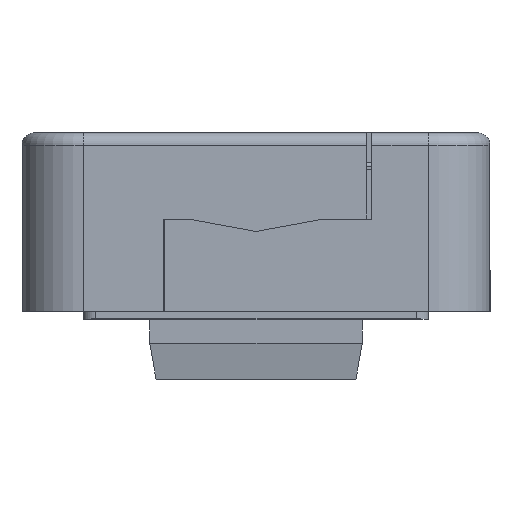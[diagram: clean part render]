
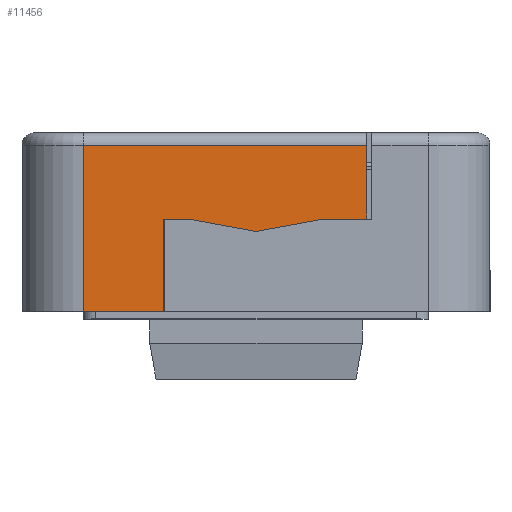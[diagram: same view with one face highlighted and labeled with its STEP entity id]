
A CAD part, left-side view. The second image highlights one B-rep face of the part: STEP entity #11456.
In plain terms, the highlighted planar face has unit normal (-1, 0, 0).
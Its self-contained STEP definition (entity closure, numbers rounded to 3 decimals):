
#1395=FACE_OUTER_BOUND('',#2057,.T.);
#2057=EDGE_LOOP('',(#10407,#10408,#10409,#10410,#10411,#10412,#10413,#10414,
#10415));
#2766=LINE('',#17646,#3950);
#3210=LINE('',#19483,#4394);
#3214=LINE('',#19491,#4398);
#3216=LINE('',#19494,#4400);
#3217=LINE('',#19496,#4401);
#3245=LINE('',#19606,#4429);
#3247=LINE('',#19619,#4431);
#3248=LINE('',#19621,#4432);
#3249=LINE('',#19622,#4433);
#3950=VECTOR('',#14034,10.);
#4394=VECTOR('',#14906,10.);
#4398=VECTOR('',#14914,10.);
#4400=VECTOR('',#14918,10.);
#4401=VECTOR('',#14919,10.);
#4429=VECTOR('',#15041,10.);
#4431=VECTOR('',#15059,10.);
#4432=VECTOR('',#15060,10.);
#4433=VECTOR('',#15061,10.);
#5092=VERTEX_POINT('',#17643);
#5093=VERTEX_POINT('',#17645);
#5487=VERTEX_POINT('',#19480);
#5488=VERTEX_POINT('',#19482);
#5490=VERTEX_POINT('',#19490);
#5491=VERTEX_POINT('',#19495);
#5526=VERTEX_POINT('',#19604);
#5529=VERTEX_POINT('',#19618);
#5530=VERTEX_POINT('',#19620);
#6514=EDGE_CURVE('',#5093,#5092,#2766,.T.);
#7101=EDGE_CURVE('',#5488,#5487,#3210,.T.);
#7105=EDGE_CURVE('',#5490,#5488,#3214,.T.);
#7107=EDGE_CURVE('',#5487,#5093,#3216,.T.);
#7108=EDGE_CURVE('',#5491,#5490,#3217,.T.);
#7160=EDGE_CURVE('',#5526,#5092,#3245,.T.);
#7166=EDGE_CURVE('',#5529,#5526,#3247,.T.);
#7167=EDGE_CURVE('',#5529,#5530,#3248,.T.);
#7168=EDGE_CURVE('',#5530,#5491,#3249,.T.);
#10407=ORIENTED_EDGE('',*,*,#7108,.T.);
#10408=ORIENTED_EDGE('',*,*,#7105,.T.);
#10409=ORIENTED_EDGE('',*,*,#7101,.T.);
#10410=ORIENTED_EDGE('',*,*,#7107,.T.);
#10411=ORIENTED_EDGE('',*,*,#6514,.T.);
#10412=ORIENTED_EDGE('',*,*,#7160,.F.);
#10413=ORIENTED_EDGE('',*,*,#7166,.F.);
#10414=ORIENTED_EDGE('',*,*,#7167,.T.);
#10415=ORIENTED_EDGE('',*,*,#7168,.T.);
#10855=PLANE('',#12305);
#11456=ADVANCED_FACE('',(#1395),#10855,.T.);
#12305=AXIS2_PLACEMENT_3D('',#19617,#15057,#15058);
#14034=DIRECTION('',(0.,0.,1.));
#14906=DIRECTION('',(0.,-0.984,0.179));
#14914=DIRECTION('',(0.,-0.984,-0.179));
#14918=DIRECTION('',(0.,-1.,0.));
#14919=DIRECTION('',(0.,-1.,0.));
#15041=DIRECTION('',(0.,-1.,0.));
#15057=DIRECTION('center_axis',(-1.,0.,0.));
#15058=DIRECTION('ref_axis',(0.,0.,1.));
#15059=DIRECTION('',(0.,0.,1.));
#15060=DIRECTION('',(0.,-1.,0.));
#15061=DIRECTION('',(0.,0.,1.));
#17643=CARTESIAN_POINT('',(-74.,-9.,6.25));
#17645=CARTESIAN_POINT('',(-74.,-9.,0.25));
#17646=CARTESIAN_POINT('',(-74.,-9.,6.25));
#19480=CARTESIAN_POINT('',(-74.,-5.5,0.25));
#19482=CARTESIAN_POINT('',(-74.,0.,-0.75));
#19483=CARTESIAN_POINT('',(-74.,0.,-0.75));
#19490=CARTESIAN_POINT('',(-74.,5.5,0.25));
#19491=CARTESIAN_POINT('',(-74.,5.5,0.25));
#19494=CARTESIAN_POINT('',(-74.,-6.7,0.25));
#19495=CARTESIAN_POINT('',(-74.,7.5,0.25));
#19496=CARTESIAN_POINT('',(-74.,-12.85,0.25));
#19604=CARTESIAN_POINT('',(-74.,14.,6.25));
#19606=CARTESIAN_POINT('',(-74.,-9.5,6.25));
#19617=CARTESIAN_POINT('Origin',(-74.,-19.,0.));
#19618=CARTESIAN_POINT('',(-74.,14.,-7.25));
#19619=CARTESIAN_POINT('',(-74.,14.,0.));
#19620=CARTESIAN_POINT('',(-74.,7.5,-7.25));
#19621=CARTESIAN_POINT('',(-74.,19.,-7.25));
#19622=CARTESIAN_POINT('',(-74.,7.5,-0.125));
